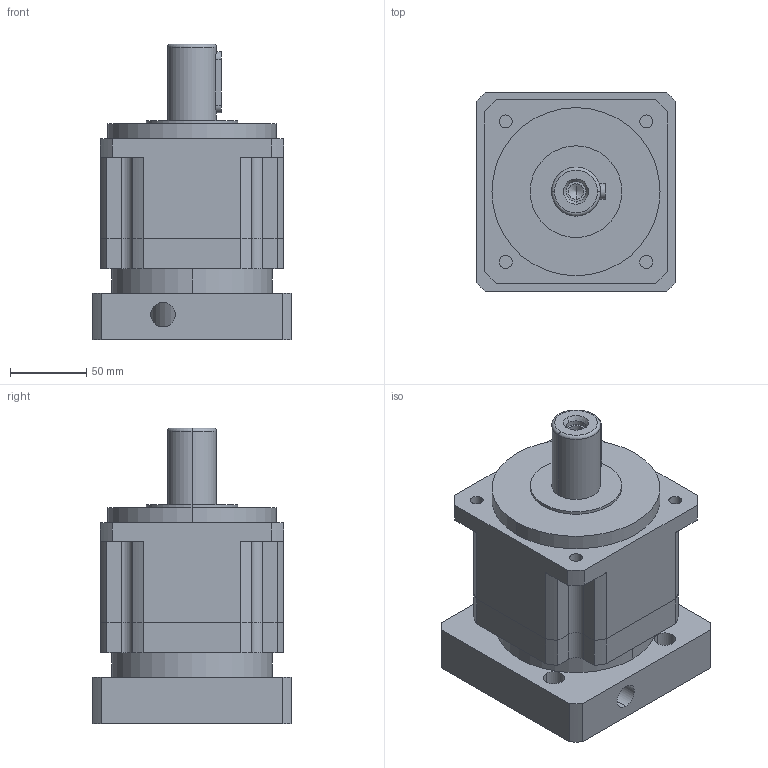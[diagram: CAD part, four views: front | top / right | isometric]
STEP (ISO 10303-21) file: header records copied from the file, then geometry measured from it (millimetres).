
FILE_DESCRIPTION (( 'STEP AP203' ), '1' );
FILE_NAME ('PAG120-L1 28-110-145M8.STEP', '2023-06-05T06:10:59', ( 'Windows User' ), ( 'P R C' ), 'SwSTEP 2.0', 'SolidWorks 2016', '' );
FILE_SCHEMA (( 'CONFIG_CONTROL_DESIGN' ));
Length unit declared in the file: millimetre
Products named in the file (7): PAG120-L1 28-110-145M8; PX120-本体齿圈_2; PX120-薊粣ん-28_LZ03_1; PX120-帣釱_1; 囀鞠褒蹟佪-M8℅25_2; 邧埴瑩 10x8x40_2; 粣創-6009 45x75x16_2
Assembly tree (6 placements, depth 2):
  PAG120-L1 28-110-145M8
    PX120-本体齿圈_2
    PX120-薊粣ん-28_LZ03_1
    PX120-帣釱_1
    囀鞠褒蹟佪-M8℅25_2
    邧埴瑩 10x8x40_2
    粣創-6009 45x75x16_2
Bounding box: 130 x 130 x 193.5 mm (x, y, z)
Volume: 1648706.6 mm3; surface area: 216213.3 mm2
Topology: 6 solids, 6 shells, 1014 faces, 2836 edges, 1873 vertices
Faces by surface type: plane 560, cylinder 165, bspline 140, sphere 83, torus 50, cone 16
Entity records: 43324 total; most frequent: CARTESIAN_POINT 17646, ORIENTED_EDGE 5568, DIRECTION 4543, EDGE_CURVE 2784, VERTEX_POINT 1844, VECTOR 1613, LINE 1613, AXIS2_PLACEMENT_3D 1465
